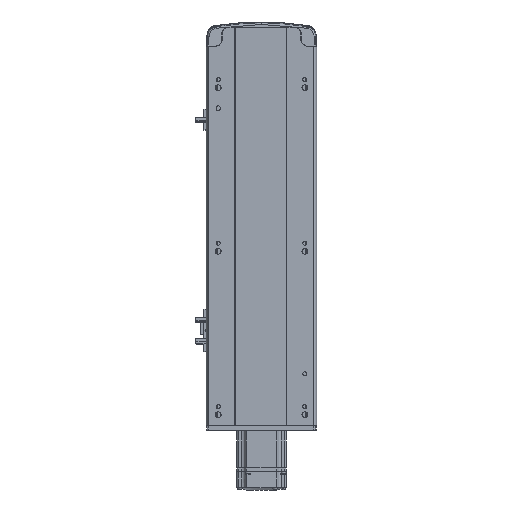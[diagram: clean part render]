
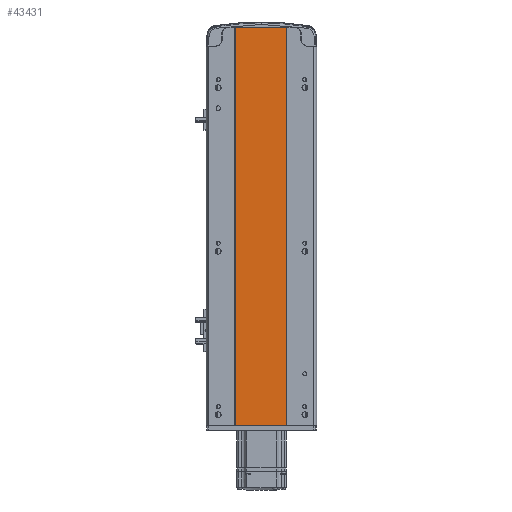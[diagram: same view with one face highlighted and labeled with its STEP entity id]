
A CAD part, front view. The second image highlights one B-rep face of the part: STEP entity #43431.
In plain terms, the highlighted planar face has unit normal (0, -1, 0).
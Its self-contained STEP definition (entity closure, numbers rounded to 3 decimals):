
#1715 = VECTOR ( 'NONE', #2204, 1000. ) ;
#1994 = CARTESIAN_POINT ( 'NONE',  ( -32., 1., 487. ) ) ;
#2204 = DIRECTION ( 'NONE',  ( 0., 0., -1. ) ) ;
#2758 = CARTESIAN_POINT ( 'NONE',  ( -32., 1., 487. ) ) ;
#5524 = DIRECTION ( 'NONE',  ( -1., 0., 0. ) ) ;
#7695 = VERTEX_POINT ( 'NONE', #2758 ) ;
#9501 = DIRECTION ( 'NONE',  ( 0., 1., 0. ) ) ;
#9923 = CARTESIAN_POINT ( 'NONE',  ( -32., 1., 0. ) ) ;
#16174 = CARTESIAN_POINT ( 'NONE',  ( 30., 1., 487. ) ) ;
#20027 = FACE_OUTER_BOUND ( 'NONE', #45360, .T. ) ;
#20786 = EDGE_CURVE ( 'NONE', #7695, #21660, #46641, .T. ) ;
#21660 = VERTEX_POINT ( 'NONE', #37889 ) ;
#22510 = LINE ( 'NONE', #16174, #25276 ) ;
#25276 = VECTOR ( 'NONE', #42270, 1000. ) ;
#27168 = ORIENTED_EDGE ( 'NONE', *, *, #33344, .F. ) ;
#28573 = CARTESIAN_POINT ( 'NONE',  ( 30., 1., 0. ) ) ;
#30796 = VECTOR ( 'NONE', #40359, 1000. ) ;
#31588 = CARTESIAN_POINT ( 'NONE',  ( -32., 1., 487. ) ) ;
#33344 = EDGE_CURVE ( 'NONE', #38336, #35672, #22510, .T. ) ;
#35416 = PLANE ( 'NONE',  #49442 ) ;
#35672 = VERTEX_POINT ( 'NONE', #28573 ) ;
#37889 = CARTESIAN_POINT ( 'NONE',  ( -32., 1., 0. ) ) ;
#38336 = VERTEX_POINT ( 'NONE', #39032 ) ;
#38372 = CARTESIAN_POINT ( 'NONE',  ( -32., 1., 487. ) ) ;
#39032 = CARTESIAN_POINT ( 'NONE',  ( 30., 1., 487. ) ) ;
#40359 = DIRECTION ( 'NONE',  ( 1., 0., 0. ) ) ;
#41386 = VECTOR ( 'NONE', #51670, 1000. ) ;
#42270 = DIRECTION ( 'NONE',  ( 0., 0., -1. ) ) ;
#42317 = EDGE_CURVE ( 'NONE', #7695, #38336, #48171, .T. ) ;
#43387 = ORIENTED_EDGE ( 'NONE', *, *, #42317, .F. ) ;
#43431 = ADVANCED_FACE ( 'NONE', ( #20027 ), #35416, .F. ) ;
#45360 = EDGE_LOOP ( 'NONE', ( #53100, #27168, #43387, #52176 ) ) ;
#46641 = LINE ( 'NONE', #1994, #1715 ) ;
#48171 = LINE ( 'NONE', #38372, #41386 ) ;
#49442 = AXIS2_PLACEMENT_3D ( 'NONE', #31588, #9501, #5524 ) ;
#51670 = DIRECTION ( 'NONE',  ( 1., 0., 0. ) ) ;
#52057 = EDGE_CURVE ( 'NONE', #21660, #35672, #55339, .T. ) ;
#52176 = ORIENTED_EDGE ( 'NONE', *, *, #20786, .T. ) ;
#53100 = ORIENTED_EDGE ( 'NONE', *, *, #52057, .T. ) ;
#55339 = LINE ( 'NONE', #9923, #30796 ) ;
